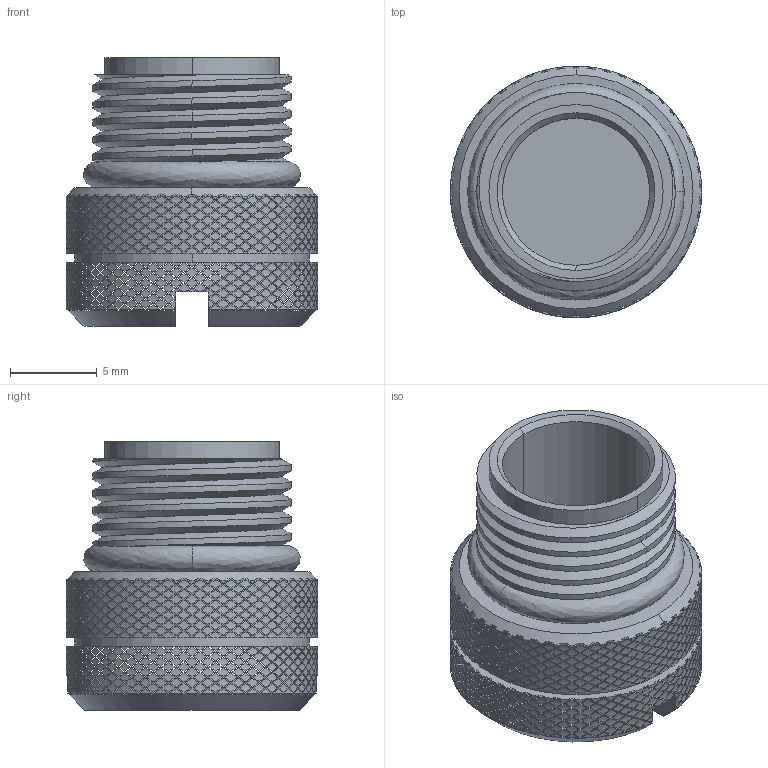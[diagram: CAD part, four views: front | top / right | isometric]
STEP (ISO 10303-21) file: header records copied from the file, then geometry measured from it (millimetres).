
FILE_DESCRIPTION (( 'STEP AP203' ), '1' );
FILE_NAME ('858-FDC-SS.STEP', '2026-01-26T14:20:25', ( '' ), ( '' ), 'SwSTEP 2.0', 'SolidWorks 2020', '' );
FILE_SCHEMA (( 'CONFIG_CONTROL_DESIGN' ));
Products named in the file (1): 858-FDC-SS
Bounding box: 14.5 x 14.5 x 15.5 mm (x, y, z)
Volume: 1424.7 mm3; surface area: 1701.1 mm2
Topology: 58 solids, 58 shells, 5392 faces, 13264 edges, 8784 vertices
Faces by surface type: bspline 4152, cylinder 1169, cone 56, plane 15
Entity records: 303346 total; most frequent: CARTESIAN_POINT 212586, ORIENTED_EDGE 26516, EDGE_CURVE 13258, B_SPLINE_CURVE_WITH_KNOTS 12365, VERTEX_POINT 8778, EDGE_LOOP 6188, ADVANCED_FACE 5335, FACE_OUTER_BOUND 5335
